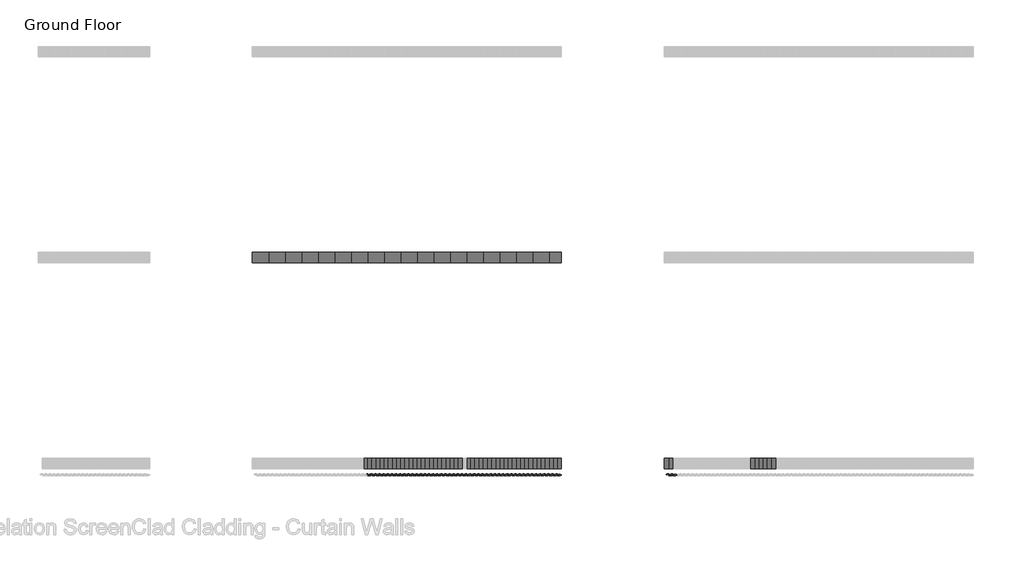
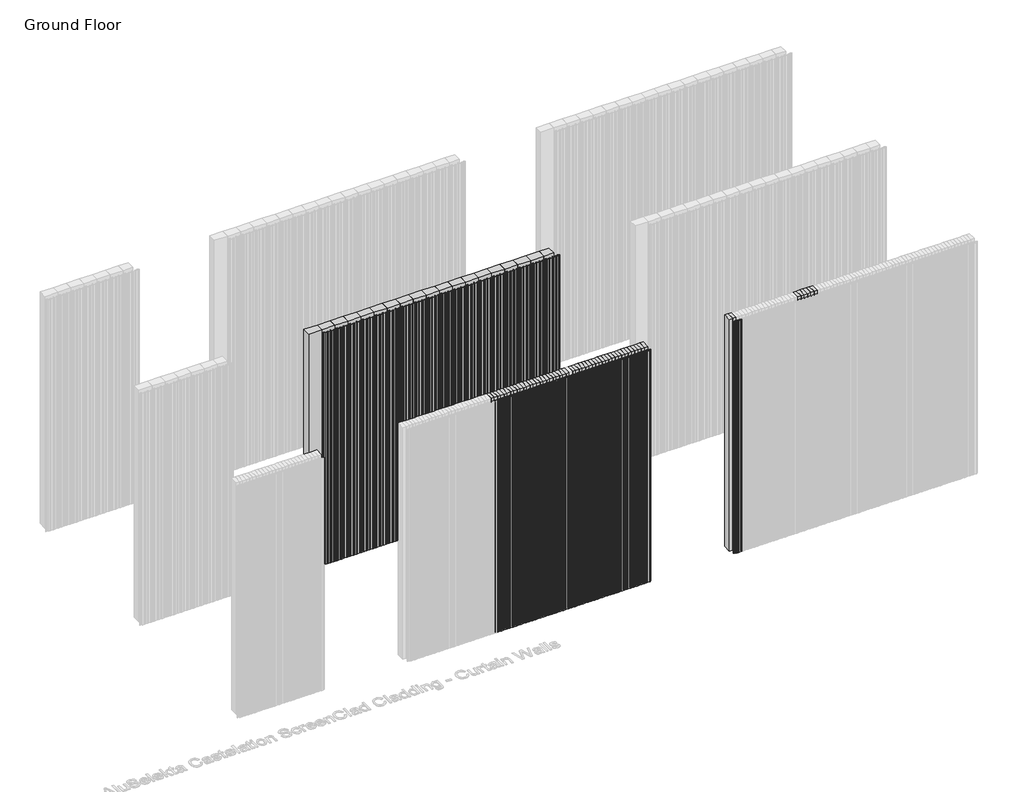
# One storey, part 24 of 350: 74 plates, 67 members.
"""IFC4 building model written with IfcOpenShell, lengths in millimetres."""

from ifc_helpers import new_model, si_unit, origin, place, context, project, spatial, transform, mapped, element, save
from components import rectangular_mullion_73ab8564, rectangular_mullion_4c3290df, empty_system_panel_empty_d822e783, empty_system_panel_empty_086c6263, empty_system_panel_empty_a0fcacb3, empty_system_panel_empty_3b645525, empty_system_panel_empty_df7ddcff

model = new_model("IFC4")

# Units and contexts
model_context = context("Model", 3, world=origin())
ifc_project = project(units=[si_unit("LENGTHUNIT", "METRE", prefix="MILLI")], contexts=[model_context])

# Site, building, storey
site = spatial("IfcSite", under=ifc_project)
building = spatial("IfcBuilding", under=site)
storey = spatial("IfcBuildingStorey", under=building, Name="Ground Floor", Elevation=0.0)

# Members
placement = place(None, origin())
rectangular_mullion_shape = rectangular_mullion_73ab8564(model_context)
element("IfcMember", 1, ObjectType="Rectangular Mullion : Cladding_Aluminium_Modinex_AluSelekta_Castelation_ScreenClad_160_Cedar", at=placement, inside=storey, context=model_context, shape_type="MappedRepresentation", body=[
    mapped(rectangular_mullion_shape, transform((33076.4361642, 6968.2978302, 0.0), x_axis=(1.0, 0.0, 0.0), y_axis=(0.0, -1.0, 0.0), z_axis=(0.0, 0.0, -1.0))),
])
element("IfcMember", 2, ObjectType="Rectangular Mullion : Cladding_Aluminium_Modinex_AluSelekta_Castelation_ScreenClad_160_Cedar", at=placement, inside=storey, context=model_context, shape_type="MappedRepresentation", body=[
    mapped(rectangular_mullion_shape, transform((33236.4361642, 6968.2978302, 0.0), x_axis=(1.0, 0.0, 0.0), y_axis=(0.0, -1.0, 0.0), z_axis=(0.0, 0.0, -1.0))),
])
element("IfcMember", 3, ObjectType="Rectangular Mullion : Cladding_Aluminium_Modinex_AluSelekta_Castelation_ScreenClad_160_Cedar", at=placement, inside=storey, context=model_context, shape_type="MappedRepresentation", body=[
    mapped(rectangular_mullion_shape, transform((33396.4361642, 6968.2978302, 0.0), x_axis=(1.0, 0.0, 0.0), y_axis=(0.0, -1.0, 0.0), z_axis=(0.0, 0.0, -1.0))),
])
element("IfcMember", 4, ObjectType="Rectangular Mullion : Cladding_Aluminium_Modinex_AluSelekta_Castelation_ScreenClad_160_Cedar", at=placement, inside=storey, context=model_context, shape_type="MappedRepresentation", body=[
    mapped(rectangular_mullion_shape, transform((33556.4361642, 6968.2978302, 0.0), x_axis=(1.0, 0.0, 0.0), y_axis=(0.0, -1.0, 0.0), z_axis=(0.0, 0.0, -1.0))),
])
element("IfcMember", 5, ObjectType="Rectangular Mullion : Cladding_Aluminium_Modinex_AluSelekta_Castelation_ScreenClad_160_Cedar", at=placement, inside=storey, context=model_context, shape_type="MappedRepresentation", body=[
    mapped(rectangular_mullion_shape, transform((33716.4361642, 6968.2978302, 0.0), x_axis=(1.0, 0.0, 0.0), y_axis=(0.0, -1.0, 0.0), z_axis=(0.0, 0.0, -1.0))),
])
element("IfcMember", 6, ObjectType="Rectangular Mullion : Cladding_Aluminium_Modinex_AluSelekta_Castelation_ScreenClad_160_Cedar", at=placement, inside=storey, context=model_context, shape_type="MappedRepresentation", body=[
    mapped(rectangular_mullion_shape, transform((33876.4361642, 6968.2978302, 0.0), x_axis=(1.0, 0.0, 0.0), y_axis=(0.0, -1.0, 0.0), z_axis=(0.0, 0.0, -1.0))),
])
element("IfcMember", 7, ObjectType="Rectangular Mullion : Cladding_Aluminium_Modinex_AluSelekta_Castelation_ScreenClad_160_Cedar", at=placement, inside=storey, context=model_context, shape_type="MappedRepresentation", body=[
    mapped(rectangular_mullion_shape, transform((34036.4361642, 6968.2978302, 0.0), x_axis=(1.0, 0.0, 0.0), y_axis=(0.0, -1.0, 0.0), z_axis=(0.0, 0.0, -1.0))),
])
element("IfcMember", 8, ObjectType="Rectangular Mullion : Cladding_Aluminium_Modinex_AluSelekta_Castelation_ScreenClad_160_Cedar", at=placement, inside=storey, context=model_context, shape_type="MappedRepresentation", body=[
    mapped(rectangular_mullion_shape, transform((34196.4361642, 6968.2978302, 0.0), x_axis=(1.0, 0.0, 0.0), y_axis=(0.0, -1.0, 0.0), z_axis=(0.0, 0.0, -1.0))),
])
element("IfcMember", 9, ObjectType="Rectangular Mullion : Cladding_Aluminium_Modinex_AluSelekta_Castelation_ScreenClad_160_Cedar", at=placement, inside=storey, context=model_context, shape_type="MappedRepresentation", body=[
    mapped(rectangular_mullion_shape, transform((34356.4361642, 6968.2978302, 0.0), x_axis=(1.0, 0.0, 0.0), y_axis=(0.0, -1.0, 0.0), z_axis=(0.0, 0.0, -1.0))),
])
element("IfcMember", 10, ObjectType="Rectangular Mullion : Cladding_Aluminium_Modinex_AluSelekta_Castelation_ScreenClad_160_Cedar", at=placement, inside=storey, context=model_context, shape_type="MappedRepresentation", body=[
    mapped(rectangular_mullion_shape, transform((34516.4361642, 6968.2978302, 0.0), x_axis=(1.0, 0.0, 0.0), y_axis=(0.0, -1.0, 0.0), z_axis=(0.0, 0.0, -1.0))),
])
element("IfcMember", 11, ObjectType="Rectangular Mullion : Cladding_Aluminium_Modinex_AluSelekta_Castelation_ScreenClad_160_Cedar", at=placement, inside=storey, context=model_context, shape_type="MappedRepresentation", body=[
    mapped(rectangular_mullion_shape, transform((34676.4361642, 6968.2978302, 0.0), x_axis=(1.0, 0.0, 0.0), y_axis=(0.0, -1.0, 0.0), z_axis=(0.0, 0.0, -1.0))),
])
element("IfcMember", 12, ObjectType="Rectangular Mullion : Cladding_Aluminium_Modinex_AluSelekta_Castelation_ScreenClad_160_Cedar", at=placement, inside=storey, context=model_context, shape_type="MappedRepresentation", body=[
    mapped(rectangular_mullion_shape, transform((34836.4361642, 6968.2978302, 0.0), x_axis=(1.0, 0.0, 0.0), y_axis=(0.0, -1.0, 0.0), z_axis=(0.0, 0.0, -1.0))),
])
element("IfcMember", 13, ObjectType="Rectangular Mullion : Cladding_Aluminium_Modinex_AluSelekta_Castelation_ScreenClad_160_Cedar", at=placement, inside=storey, context=model_context, shape_type="MappedRepresentation", body=[
    mapped(rectangular_mullion_shape, transform((34996.4361642, 6968.2978302, 0.0), x_axis=(1.0, 0.0, 0.0), y_axis=(0.0, -1.0, 0.0), z_axis=(0.0, 0.0, -1.0))),
])
element("IfcMember", 14, ObjectType="Rectangular Mullion : Cladding_Aluminium_Modinex_AluSelekta_Castelation_ScreenClad_160_Cedar", at=placement, inside=storey, context=model_context, shape_type="MappedRepresentation", body=[
    mapped(rectangular_mullion_shape, transform((35156.4361642, 6968.2978302, 0.0), x_axis=(1.0, 0.0, 0.0), y_axis=(0.0, -1.0, 0.0), z_axis=(0.0, 0.0, -1.0))),
])
element("IfcMember", 15, ObjectType="Rectangular Mullion : Cladding_Aluminium_Modinex_AluSelekta_Castelation_ScreenClad_160_Cedar", at=placement, inside=storey, context=model_context, shape_type="MappedRepresentation", body=[
    mapped(rectangular_mullion_shape, transform((35316.4361642, 6968.2978302, 0.0), x_axis=(1.0, 0.0, 0.0), y_axis=(0.0, -1.0, 0.0), z_axis=(0.0, 0.0, -1.0))),
])
element("IfcMember", 16, ObjectType="Rectangular Mullion : Cladding_Aluminium_Modinex_AluSelekta_Castelation_ScreenClad_160_Cedar", at=placement, inside=storey, context=model_context, shape_type="MappedRepresentation", body=[
    mapped(rectangular_mullion_shape, transform((35476.4361642, 6968.2978302, 0.0), x_axis=(1.0, 0.0, 0.0), y_axis=(0.0, -1.0, 0.0), z_axis=(0.0, 0.0, -1.0))),
])
element("IfcMember", 17, ObjectType="Rectangular Mullion : Cladding_Aluminium_Modinex_AluSelekta_Castelation_ScreenClad_160_Cedar", at=placement, inside=storey, context=model_context, shape_type="MappedRepresentation", body=[
    mapped(rectangular_mullion_shape, transform((35636.4361642, 6968.2978302, 0.0), x_axis=(1.0, 0.0, 0.0), y_axis=(0.0, -1.0, 0.0), z_axis=(0.0, 0.0, -1.0))),
])
element("IfcMember", 18, ObjectType="Rectangular Mullion : Cladding_Aluminium_Modinex_AluSelekta_Castelation_ScreenClad_160_Cedar", at=placement, inside=storey, context=model_context, shape_type="MappedRepresentation", body=[
    mapped(rectangular_mullion_shape, transform((35796.4361642, 6968.2978302, 0.0), x_axis=(1.0, 0.0, 0.0), y_axis=(0.0, -1.0, 0.0), z_axis=(0.0, 0.0, -1.0))),
])
rectangular_mullion_2_shape = rectangular_mullion_4c3290df(model_context)
element("IfcMember", 19, ObjectType="Rectangular Mullion : Cladding_Aluminium_Modinex_AluSelekta_Castelation_ScreenClad_40_Cedar", at=placement, inside=storey, context=model_context, shape_type="MappedRepresentation", body=[
    mapped(rectangular_mullion_2_shape, transform((35156.4361642, 4968.2978302, 0.0), x_axis=(1.0, 0.0, 0.0), y_axis=(0.0, -1.0, 0.0), z_axis=(0.0, 0.0, -1.0))),
])
element("IfcMember", 20, ObjectType="Rectangular Mullion : Cladding_Aluminium_Modinex_AluSelekta_Castelation_ScreenClad_40_Cedar", at=placement, inside=storey, context=model_context, shape_type="MappedRepresentation", body=[
    mapped(rectangular_mullion_2_shape, transform((35196.4361642, 4968.2978302, 0.0), x_axis=(1.0, 0.0, 0.0), y_axis=(0.0, -1.0, 0.0), z_axis=(0.0, 0.0, -1.0))),
])
element("IfcMember", 21, ObjectType="Rectangular Mullion : Cladding_Aluminium_Modinex_AluSelekta_Castelation_ScreenClad_40_Cedar", at=placement, inside=storey, context=model_context, shape_type="MappedRepresentation", body=[
    mapped(rectangular_mullion_2_shape, transform((35236.4361642, 4968.2978302, 0.0), x_axis=(1.0, 0.0, 0.0), y_axis=(0.0, -1.0, 0.0), z_axis=(0.0, 0.0, -1.0))),
])
element("IfcMember", 22, ObjectType="Rectangular Mullion : Cladding_Aluminium_Modinex_AluSelekta_Castelation_ScreenClad_40_Cedar", at=placement, inside=storey, context=model_context, shape_type="MappedRepresentation", body=[
    mapped(rectangular_mullion_2_shape, transform((35276.4361642, 4968.2978302, 0.0), x_axis=(1.0, 0.0, 0.0), y_axis=(0.0, -1.0, 0.0), z_axis=(0.0, 0.0, -1.0))),
])
element("IfcMember", 23, ObjectType="Rectangular Mullion : Cladding_Aluminium_Modinex_AluSelekta_Castelation_ScreenClad_40_Cedar", at=placement, inside=storey, context=model_context, shape_type="MappedRepresentation", body=[
    mapped(rectangular_mullion_2_shape, transform((35316.4361642, 4968.2978302, 0.0), x_axis=(1.0, 0.0, 0.0), y_axis=(0.0, -1.0, 0.0), z_axis=(0.0, 0.0, -1.0))),
])
element("IfcMember", 24, ObjectType="Rectangular Mullion : Cladding_Aluminium_Modinex_AluSelekta_Castelation_ScreenClad_40_Cedar", at=placement, inside=storey, context=model_context, shape_type="MappedRepresentation", body=[
    mapped(rectangular_mullion_2_shape, transform((35356.4361642, 4968.2978302, 0.0), x_axis=(1.0, 0.0, 0.0), y_axis=(0.0, -1.0, 0.0), z_axis=(0.0, 0.0, -1.0))),
])
element("IfcMember", 25, ObjectType="Rectangular Mullion : Cladding_Aluminium_Modinex_AluSelekta_Castelation_ScreenClad_40_Cedar", at=placement, inside=storey, context=model_context, shape_type="MappedRepresentation", body=[
    mapped(rectangular_mullion_2_shape, transform((35396.4361642, 4968.2978302, 0.0), x_axis=(1.0, 0.0, 0.0), y_axis=(0.0, -1.0, 0.0), z_axis=(0.0, 0.0, -1.0))),
])
element("IfcMember", 26, ObjectType="Rectangular Mullion : Cladding_Aluminium_Modinex_AluSelekta_Castelation_ScreenClad_40_Cedar", at=placement, inside=storey, context=model_context, shape_type="MappedRepresentation", body=[
    mapped(rectangular_mullion_2_shape, transform((35436.4361642, 4968.2978302, 0.0), x_axis=(1.0, 0.0, 0.0), y_axis=(0.0, -1.0, 0.0), z_axis=(0.0, 0.0, -1.0))),
])
element("IfcMember", 27, ObjectType="Rectangular Mullion : Cladding_Aluminium_Modinex_AluSelekta_Castelation_ScreenClad_40_Cedar", at=placement, inside=storey, context=model_context, shape_type="MappedRepresentation", body=[
    mapped(rectangular_mullion_2_shape, transform((35476.4361642, 4968.2978302, 0.0), x_axis=(1.0, 0.0, 0.0), y_axis=(0.0, -1.0, 0.0), z_axis=(0.0, 0.0, -1.0))),
])
element("IfcMember", 28, ObjectType="Rectangular Mullion : Cladding_Aluminium_Modinex_AluSelekta_Castelation_ScreenClad_40_Cedar", at=placement, inside=storey, context=model_context, shape_type="MappedRepresentation", body=[
    mapped(rectangular_mullion_2_shape, transform((35516.4361642, 4968.2978302, 0.0), x_axis=(1.0, 0.0, 0.0), y_axis=(0.0, -1.0, 0.0), z_axis=(0.0, 0.0, -1.0))),
])
element("IfcMember", 29, ObjectType="Rectangular Mullion : Cladding_Aluminium_Modinex_AluSelekta_Castelation_ScreenClad_40_Cedar", at=placement, inside=storey, context=model_context, shape_type="MappedRepresentation", body=[
    mapped(rectangular_mullion_2_shape, transform((35556.4361642, 4968.2978302, 0.0), x_axis=(1.0, 0.0, 0.0), y_axis=(0.0, -1.0, 0.0), z_axis=(0.0, 0.0, -1.0))),
])
element("IfcMember", 30, ObjectType="Rectangular Mullion : Cladding_Aluminium_Modinex_AluSelekta_Castelation_ScreenClad_40_Cedar", at=placement, inside=storey, context=model_context, shape_type="MappedRepresentation", body=[
    mapped(rectangular_mullion_2_shape, transform((35596.4361642, 4968.2978302, 0.0), x_axis=(1.0, 0.0, 0.0), y_axis=(0.0, -1.0, 0.0), z_axis=(0.0, 0.0, -1.0))),
])
element("IfcMember", 31, ObjectType="Rectangular Mullion : Cladding_Aluminium_Modinex_AluSelekta_Castelation_ScreenClad_40_Cedar", at=placement, inside=storey, context=model_context, shape_type="MappedRepresentation", body=[
    mapped(rectangular_mullion_2_shape, transform((35636.4361642, 4968.2978302, 0.0), x_axis=(1.0, 0.0, 0.0), y_axis=(0.0, -1.0, 0.0), z_axis=(0.0, 0.0, -1.0))),
])
element("IfcMember", 32, ObjectType="Rectangular Mullion : Cladding_Aluminium_Modinex_AluSelekta_Castelation_ScreenClad_40_Cedar", at=placement, inside=storey, context=model_context, shape_type="MappedRepresentation", body=[
    mapped(rectangular_mullion_2_shape, transform((35676.4361642, 4968.2978302, 0.0), x_axis=(1.0, 0.0, 0.0), y_axis=(0.0, -1.0, 0.0), z_axis=(0.0, 0.0, -1.0))),
])
element("IfcMember", 33, ObjectType="Rectangular Mullion : Cladding_Aluminium_Modinex_AluSelekta_Castelation_ScreenClad_40_Cedar", at=placement, inside=storey, context=model_context, shape_type="MappedRepresentation", body=[
    mapped(rectangular_mullion_2_shape, transform((35716.4361642, 4968.2978302, 0.0), x_axis=(1.0, 0.0, 0.0), y_axis=(0.0, -1.0, 0.0), z_axis=(0.0, 0.0, -1.0))),
])
element("IfcMember", 34, ObjectType="Rectangular Mullion : Cladding_Aluminium_Modinex_AluSelekta_Castelation_ScreenClad_40_Cedar", at=placement, inside=storey, context=model_context, shape_type="MappedRepresentation", body=[
    mapped(rectangular_mullion_2_shape, transform((35756.4361642, 4968.2978302, 0.0), x_axis=(1.0, 0.0, 0.0), y_axis=(0.0, -1.0, 0.0), z_axis=(0.0, 0.0, -1.0))),
])
element("IfcMember", 35, ObjectType="Rectangular Mullion : Cladding_Aluminium_Modinex_AluSelekta_Castelation_ScreenClad_40_Cedar", at=placement, inside=storey, context=model_context, shape_type="MappedRepresentation", body=[
    mapped(rectangular_mullion_2_shape, transform((35796.4361642, 4968.2978302, 0.0), x_axis=(1.0, 0.0, 0.0), y_axis=(0.0, -1.0, 0.0), z_axis=(0.0, 0.0, -1.0))),
])
element("IfcMember", 36, ObjectType="Rectangular Mullion : Cladding_Aluminium_Modinex_AluSelekta_Castelation_ScreenClad_40_Cedar", at=placement, inside=storey, context=model_context, shape_type="MappedRepresentation", body=[
    mapped(rectangular_mullion_2_shape, transform((35836.4361642, 4968.2978302, 0.0), x_axis=(1.0, 0.0, 0.0), y_axis=(0.0, -1.0, 0.0), z_axis=(0.0, 0.0, -1.0))),
])
element("IfcMember", 37, ObjectType="Rectangular Mullion : Cladding_Aluminium_Modinex_AluSelekta_Castelation_ScreenClad_40_Cedar", at=placement, inside=storey, context=model_context, shape_type="MappedRepresentation", body=[
    mapped(rectangular_mullion_2_shape, transform((35876.4361642, 4968.2978302, 0.0), x_axis=(1.0, 0.0, 0.0), y_axis=(0.0, -1.0, 0.0), z_axis=(0.0, 0.0, -1.0))),
])
element("IfcMember", 38, ObjectType="Rectangular Mullion : Cladding_Aluminium_Modinex_AluSelekta_Castelation_ScreenClad_40_Cedar", at=placement, inside=storey, context=model_context, shape_type="MappedRepresentation", body=[
    mapped(rectangular_mullion_2_shape, transform((35116.4361642, 4968.2978302, 0.0), x_axis=(1.0, 0.0, 0.0), y_axis=(0.0, -1.0, 0.0), z_axis=(0.0, 0.0, -1.0))),
])
element("IfcMember", 39, ObjectType="Rectangular Mullion : Cladding_Aluminium_Modinex_AluSelekta_Castelation_ScreenClad_40_Cedar", at=placement, inside=storey, context=model_context, shape_type="MappedRepresentation", body=[
    mapped(rectangular_mullion_2_shape, transform((35076.4361642, 4968.2978302, 0.0), x_axis=(1.0, 0.0, 0.0), y_axis=(0.0, -1.0, 0.0), z_axis=(0.0, 0.0, -1.0))),
])
element("IfcMember", 40, ObjectType="Rectangular Mullion : Cladding_Aluminium_Modinex_AluSelekta_Castelation_ScreenClad_40_Cedar", at=placement, inside=storey, context=model_context, shape_type="MappedRepresentation", body=[
    mapped(rectangular_mullion_2_shape, transform((35036.4361642, 4968.2978302, 0.0), x_axis=(1.0, 0.0, 0.0), y_axis=(0.0, -1.0, 0.0), z_axis=(0.0, 0.0, -1.0))),
])
element("IfcMember", 41, ObjectType="Rectangular Mullion : Cladding_Aluminium_Modinex_AluSelekta_Castelation_ScreenClad_40_Cedar", at=placement, inside=storey, context=model_context, shape_type="MappedRepresentation", body=[
    mapped(rectangular_mullion_2_shape, transform((34996.4361642, 4968.2978302, 0.0), x_axis=(1.0, 0.0, 0.0), y_axis=(0.0, -1.0, 0.0), z_axis=(0.0, 0.0, -1.0))),
])
element("IfcMember", 42, ObjectType="Rectangular Mullion : Cladding_Aluminium_Modinex_AluSelekta_Castelation_ScreenClad_40_Cedar", at=placement, inside=storey, context=model_context, shape_type="MappedRepresentation", body=[
    mapped(rectangular_mullion_2_shape, transform((34956.4361642, 4968.2978302, 0.0), x_axis=(1.0, 0.0, 0.0), y_axis=(0.0, -1.0, 0.0), z_axis=(0.0, 0.0, -1.0))),
])
element("IfcMember", 43, ObjectType="Rectangular Mullion : Cladding_Aluminium_Modinex_AluSelekta_Castelation_ScreenClad_40_Cedar", at=placement, inside=storey, context=model_context, shape_type="MappedRepresentation", body=[
    mapped(rectangular_mullion_2_shape, transform((34916.4361642, 4968.2978302, 0.0), x_axis=(1.0, 0.0, 0.0), y_axis=(0.0, -1.0, 0.0), z_axis=(0.0, 0.0, -1.0))),
])
element("IfcMember", 44, ObjectType="Rectangular Mullion : Cladding_Aluminium_Modinex_AluSelekta_Castelation_ScreenClad_40_Cedar", at=placement, inside=storey, context=model_context, shape_type="MappedRepresentation", body=[
    mapped(rectangular_mullion_2_shape, transform((34876.4361642, 4968.2978302, 0.0), x_axis=(1.0, 0.0, 0.0), y_axis=(0.0, -1.0, 0.0), z_axis=(0.0, 0.0, -1.0))),
])
element("IfcMember", 45, ObjectType="Rectangular Mullion : Cladding_Aluminium_Modinex_AluSelekta_Castelation_ScreenClad_40_Cedar", at=placement, inside=storey, context=model_context, shape_type="MappedRepresentation", body=[
    mapped(rectangular_mullion_2_shape, transform((34836.4361642, 4968.2978302, 0.0), x_axis=(1.0, 0.0, 0.0), y_axis=(0.0, -1.0, 0.0), z_axis=(0.0, 0.0, -1.0))),
])
element("IfcMember", 46, ObjectType="Rectangular Mullion : Cladding_Aluminium_Modinex_AluSelekta_Castelation_ScreenClad_40_Cedar", at=placement, inside=storey, context=model_context, shape_type="MappedRepresentation", body=[
    mapped(rectangular_mullion_2_shape, transform((34796.4361642, 4968.2978302, 0.0), x_axis=(1.0, 0.0, 0.0), y_axis=(0.0, -1.0, 0.0), z_axis=(0.0, 0.0, -1.0))),
])
element("IfcMember", 47, ObjectType="Rectangular Mullion : Cladding_Aluminium_Modinex_AluSelekta_Castelation_ScreenClad_40_Cedar", at=placement, inside=storey, context=model_context, shape_type="MappedRepresentation", body=[
    mapped(rectangular_mullion_2_shape, transform((34756.4361642, 4968.2978302, 0.0), x_axis=(1.0, 0.0, 0.0), y_axis=(0.0, -1.0, 0.0), z_axis=(0.0, 0.0, -1.0))),
])
element("IfcMember", 48, ObjectType="Rectangular Mullion : Cladding_Aluminium_Modinex_AluSelekta_Castelation_ScreenClad_40_Cedar", at=placement, inside=storey, context=model_context, shape_type="MappedRepresentation", body=[
    mapped(rectangular_mullion_2_shape, transform((34716.4361642, 4968.2978302, 0.0), x_axis=(1.0, 0.0, 0.0), y_axis=(0.0, -1.0, 0.0), z_axis=(0.0, 0.0, -1.0))),
])
element("IfcMember", 49, ObjectType="Rectangular Mullion : Cladding_Aluminium_Modinex_AluSelekta_Castelation_ScreenClad_40_Cedar", at=placement, inside=storey, context=model_context, shape_type="MappedRepresentation", body=[
    mapped(rectangular_mullion_2_shape, transform((34676.4361642, 4968.2978302, 0.0), x_axis=(1.0, 0.0, 0.0), y_axis=(0.0, -1.0, 0.0), z_axis=(0.0, 0.0, -1.0))),
])
element("IfcMember", 50, ObjectType="Rectangular Mullion : Cladding_Aluminium_Modinex_AluSelekta_Castelation_ScreenClad_40_Cedar", at=placement, inside=storey, context=model_context, shape_type="MappedRepresentation", body=[
    mapped(rectangular_mullion_2_shape, transform((34636.4361642, 4968.2978302, 0.0), x_axis=(1.0, 0.0, 0.0), y_axis=(0.0, -1.0, 0.0), z_axis=(0.0, 0.0, -1.0))),
])
element("IfcMember", 51, ObjectType="Rectangular Mullion : Cladding_Aluminium_Modinex_AluSelekta_Castelation_ScreenClad_40_Cedar", at=placement, inside=storey, context=model_context, shape_type="MappedRepresentation", body=[
    mapped(rectangular_mullion_2_shape, transform((34596.4361642, 4968.2978302, 0.0), x_axis=(1.0, 0.0, 0.0), y_axis=(0.0, -1.0, 0.0), z_axis=(0.0, 0.0, -1.0))),
])
element("IfcMember", 52, ObjectType="Rectangular Mullion : Cladding_Aluminium_Modinex_AluSelekta_Castelation_ScreenClad_40_Cedar", at=placement, inside=storey, context=model_context, shape_type="MappedRepresentation", body=[
    mapped(rectangular_mullion_2_shape, transform((34556.4361642, 4968.2978302, 0.0), x_axis=(1.0, 0.0, 0.0), y_axis=(0.0, -1.0, 0.0), z_axis=(0.0, 0.0, -1.0))),
])
element("IfcMember", 53, ObjectType="Rectangular Mullion : Cladding_Aluminium_Modinex_AluSelekta_Castelation_ScreenClad_40_Cedar", at=placement, inside=storey, context=model_context, shape_type="MappedRepresentation", body=[
    mapped(rectangular_mullion_2_shape, transform((34516.4361642, 4968.2978302, 0.0), x_axis=(1.0, 0.0, 0.0), y_axis=(0.0, -1.0, 0.0), z_axis=(0.0, 0.0, -1.0))),
])
element("IfcMember", 54, ObjectType="Rectangular Mullion : Cladding_Aluminium_Modinex_AluSelekta_Castelation_ScreenClad_40_Cedar", at=placement, inside=storey, context=model_context, shape_type="MappedRepresentation", body=[
    mapped(rectangular_mullion_2_shape, transform((34476.4361642, 4968.2978302, 0.0), x_axis=(1.0, 0.0, 0.0), y_axis=(0.0, -1.0, 0.0), z_axis=(0.0, 0.0, -1.0))),
])
element("IfcMember", 55, ObjectType="Rectangular Mullion : Cladding_Aluminium_Modinex_AluSelekta_Castelation_ScreenClad_40_Cedar", at=placement, inside=storey, context=model_context, shape_type="MappedRepresentation", body=[
    mapped(rectangular_mullion_2_shape, transform((34436.4361642, 4968.2978302, 0.0), x_axis=(1.0, 0.0, 0.0), y_axis=(0.0, -1.0, 0.0), z_axis=(0.0, 0.0, -1.0))),
])
element("IfcMember", 56, ObjectType="Rectangular Mullion : Cladding_Aluminium_Modinex_AluSelekta_Castelation_ScreenClad_40_Cedar", at=placement, inside=storey, context=model_context, shape_type="MappedRepresentation", body=[
    mapped(rectangular_mullion_2_shape, transform((34396.4361642, 4968.2978302, 0.0), x_axis=(1.0, 0.0, 0.0), y_axis=(0.0, -1.0, 0.0), z_axis=(0.0, 0.0, -1.0))),
])
element("IfcMember", 57, ObjectType="Rectangular Mullion : Cladding_Aluminium_Modinex_AluSelekta_Castelation_ScreenClad_40_Cedar", at=placement, inside=storey, context=model_context, shape_type="MappedRepresentation", body=[
    mapped(rectangular_mullion_2_shape, transform((34356.4361642, 4968.2978302, 0.0), x_axis=(1.0, 0.0, 0.0), y_axis=(0.0, -1.0, 0.0), z_axis=(0.0, 0.0, -1.0))),
])
element("IfcMember", 58, ObjectType="Rectangular Mullion : Cladding_Aluminium_Modinex_AluSelekta_Castelation_ScreenClad_40_Cedar", at=placement, inside=storey, context=model_context, shape_type="MappedRepresentation", body=[
    mapped(rectangular_mullion_2_shape, transform((34316.4361642, 4968.2978302, 0.0), x_axis=(1.0, 0.0, 0.0), y_axis=(0.0, -1.0, 0.0), z_axis=(0.0, 0.0, -1.0))),
])
element("IfcMember", 59, ObjectType="Rectangular Mullion : Cladding_Aluminium_Modinex_AluSelekta_Castelation_ScreenClad_40_Cedar", at=placement, inside=storey, context=model_context, shape_type="MappedRepresentation", body=[
    mapped(rectangular_mullion_2_shape, transform((34276.4361642, 4968.2978302, 0.0), x_axis=(1.0, 0.0, 0.0), y_axis=(0.0, -1.0, 0.0), z_axis=(0.0, 0.0, -1.0))),
])
element("IfcMember", 60, ObjectType="Rectangular Mullion : Cladding_Aluminium_Modinex_AluSelekta_Castelation_ScreenClad_40_Cedar", at=placement, inside=storey, context=model_context, shape_type="MappedRepresentation", body=[
    mapped(rectangular_mullion_2_shape, transform((34236.4361642, 4968.2978302, 0.0), x_axis=(1.0, 0.0, 0.0), y_axis=(0.0, -1.0, 0.0), z_axis=(0.0, 0.0, -1.0))),
])
element("IfcMember", 61, ObjectType="Rectangular Mullion : Cladding_Aluminium_Modinex_AluSelekta_Castelation_ScreenClad_40_Cedar", at=placement, inside=storey, context=model_context, shape_type="MappedRepresentation", body=[
    mapped(rectangular_mullion_2_shape, transform((34196.4361642, 4968.2978302, 0.0), x_axis=(1.0, 0.0, 0.0), y_axis=(0.0, -1.0, 0.0), z_axis=(0.0, 0.0, -1.0))),
])
element("IfcMember", 62, ObjectType="Rectangular Mullion : Cladding_Aluminium_Modinex_AluSelekta_Castelation_ScreenClad_40_Cedar", at=placement, inside=storey, context=model_context, shape_type="MappedRepresentation", body=[
    mapped(rectangular_mullion_2_shape, transform((34156.4361642, 4968.2978302, 0.0), x_axis=(1.0, 0.0, 0.0), y_axis=(0.0, -1.0, 0.0), z_axis=(0.0, 0.0, -1.0))),
])
element("IfcMember", 63, ObjectType="Rectangular Mullion : Cladding_Aluminium_Modinex_AluSelekta_Castelation_ScreenClad_40_Cedar", at=placement, inside=storey, context=model_context, shape_type="MappedRepresentation", body=[
    mapped(rectangular_mullion_2_shape, transform((34116.4361642, 4968.2978302, 0.0), x_axis=(1.0, 0.0, 0.0), y_axis=(0.0, -1.0, 0.0), z_axis=(0.0, 0.0, -1.0))),
])
element("IfcMember", 64, ObjectType="Rectangular Mullion : Cladding_Aluminium_Modinex_AluSelekta_Castelation_ScreenClad_40_Cedar", at=placement, inside=storey, context=model_context, shape_type="MappedRepresentation", body=[
    mapped(rectangular_mullion_2_shape, transform((34076.4361642, 4968.2978302, 0.0), x_axis=(1.0, 0.0, 0.0), y_axis=(0.0, -1.0, 0.0), z_axis=(0.0, 0.0, -1.0))),
])
element("IfcMember", 65, ObjectType="Rectangular Mullion : Cladding_Aluminium_Modinex_AluSelekta_Castelation_ScreenClad_40_Cedar", at=placement, inside=storey, context=model_context, shape_type="MappedRepresentation", body=[
    mapped(rectangular_mullion_2_shape, transform((34036.4361642, 4968.2978302, 0.0), x_axis=(1.0, 0.0, 0.0), y_axis=(0.0, -1.0, 0.0), z_axis=(0.0, 0.0, -1.0))),
])
element("IfcMember", 66, ObjectType="Rectangular Mullion : Cladding_Aluminium_Modinex_AluSelekta_Castelation_ScreenClad_40_EnglishOak", at=placement, inside=storey, context=model_context, shape_type="MappedRepresentation", body=[
    mapped(rectangular_mullion_2_shape, transform((36996.4361642, 4968.2978302, 0.0), x_axis=(1.0, 0.0, 0.0), y_axis=(0.0, -1.0, 0.0), z_axis=(0.0, 0.0, -1.0))),
])
element("IfcMember", 67, ObjectType="Rectangular Mullion : Cladding_Aluminium_Modinex_AluSelekta_Castelation_ScreenClad_40_EnglishOak", at=placement, inside=storey, context=model_context, shape_type="MappedRepresentation", body=[
    mapped(rectangular_mullion_2_shape, transform((36956.4361642, 4968.2978302, 0.0), x_axis=(1.0, 0.0, 0.0), y_axis=(0.0, -1.0, 0.0), z_axis=(0.0, 0.0, -1.0))),
])

# Plates
empty_system_panel_empty_shape = empty_system_panel_empty_d822e783(model_context)
element("IfcPlate", 68, ObjectType="Empty System Panel : Empty", at=placement, inside=storey, context=model_context, shape_type="MappedRepresentation", body=[
    mapped(empty_system_panel_empty_shape, transform((36936.4361641, 4968.2978302, 0.0), x_axis=(1.0, 0.0, 0.0), y_axis=(0.0, 1.0, 0.0), z_axis=(0.0, 0.0, 1.0))),
])
empty_system_panel_empty_2_shape = empty_system_panel_empty_086c6263(model_context)
element("IfcPlate", 69, ObjectType="Empty System Panel : Empty", at=placement, inside=storey, context=model_context, shape_type="MappedRepresentation", body=[
    mapped(empty_system_panel_empty_2_shape, transform((35176.4361642, 4968.2978302, 0.0), x_axis=(1.0, 0.0, 0.0), y_axis=(0.0, 1.0, 0.0), z_axis=(0.0, 0.0, 1.0))),
])
element("IfcPlate", 70, ObjectType="Empty System Panel : Empty", at=placement, inside=storey, context=model_context, shape_type="MappedRepresentation", body=[
    mapped(empty_system_panel_empty_2_shape, transform((35216.4361642, 4968.2978302, 0.0), x_axis=(1.0, 0.0, 0.0), y_axis=(0.0, 1.0, 0.0), z_axis=(0.0, 0.0, 1.0))),
])
element("IfcPlate", 71, ObjectType="Empty System Panel : Empty", at=placement, inside=storey, context=model_context, shape_type="MappedRepresentation", body=[
    mapped(empty_system_panel_empty_2_shape, transform((35256.4361642, 4968.2978302, 0.0), x_axis=(1.0, 0.0, 0.0), y_axis=(0.0, 1.0, 0.0), z_axis=(0.0, 0.0, 1.0))),
])
element("IfcPlate", 72, ObjectType="Empty System Panel : Empty", at=placement, inside=storey, context=model_context, shape_type="MappedRepresentation", body=[
    mapped(empty_system_panel_empty_2_shape, transform((35296.4361642, 4968.2978302, 0.0), x_axis=(1.0, 0.0, 0.0), y_axis=(0.0, 1.0, 0.0), z_axis=(0.0, 0.0, 1.0))),
])
element("IfcPlate", 73, ObjectType="Empty System Panel : Empty", at=placement, inside=storey, context=model_context, shape_type="MappedRepresentation", body=[
    mapped(empty_system_panel_empty_2_shape, transform((35336.4361642, 4968.2978302, 0.0), x_axis=(1.0, 0.0, 0.0), y_axis=(0.0, 1.0, 0.0), z_axis=(0.0, 0.0, 1.0))),
])
element("IfcPlate", 74, ObjectType="Empty System Panel : Empty", at=placement, inside=storey, context=model_context, shape_type="MappedRepresentation", body=[
    mapped(empty_system_panel_empty_2_shape, transform((35376.4361642, 4968.2978302, 0.0), x_axis=(1.0, 0.0, 0.0), y_axis=(0.0, 1.0, 0.0), z_axis=(0.0, 0.0, 1.0))),
])
element("IfcPlate", 75, ObjectType="Empty System Panel : Empty", at=placement, inside=storey, context=model_context, shape_type="MappedRepresentation", body=[
    mapped(empty_system_panel_empty_2_shape, transform((35416.4361642, 4968.2978302, 0.0), x_axis=(1.0, 0.0, 0.0), y_axis=(0.0, 1.0, 0.0), z_axis=(0.0, 0.0, 1.0))),
])
element("IfcPlate", 76, ObjectType="Empty System Panel : Empty", at=placement, inside=storey, context=model_context, shape_type="MappedRepresentation", body=[
    mapped(empty_system_panel_empty_2_shape, transform((35456.4361642, 4968.2978302, 0.0), x_axis=(1.0, 0.0, 0.0), y_axis=(0.0, 1.0, 0.0), z_axis=(0.0, 0.0, 1.0))),
])
element("IfcPlate", 77, ObjectType="Empty System Panel : Empty", at=placement, inside=storey, context=model_context, shape_type="MappedRepresentation", body=[
    mapped(empty_system_panel_empty_2_shape, transform((35496.4361642, 4968.2978302, 0.0), x_axis=(1.0, 0.0, 0.0), y_axis=(0.0, 1.0, 0.0), z_axis=(0.0, 0.0, 1.0))),
])
element("IfcPlate", 78, ObjectType="Empty System Panel : Empty", at=placement, inside=storey, context=model_context, shape_type="MappedRepresentation", body=[
    mapped(empty_system_panel_empty_2_shape, transform((35536.4361642, 4968.2978302, 0.0), x_axis=(1.0, 0.0, 0.0), y_axis=(0.0, 1.0, 0.0), z_axis=(0.0, 0.0, 1.0))),
])
element("IfcPlate", 79, ObjectType="Empty System Panel : Empty", at=placement, inside=storey, context=model_context, shape_type="MappedRepresentation", body=[
    mapped(empty_system_panel_empty_2_shape, transform((35576.4361642, 4968.2978302, 0.0), x_axis=(1.0, 0.0, 0.0), y_axis=(0.0, 1.0, 0.0), z_axis=(0.0, 0.0, 1.0))),
])
element("IfcPlate", 80, ObjectType="Empty System Panel : Empty", at=placement, inside=storey, context=model_context, shape_type="MappedRepresentation", body=[
    mapped(empty_system_panel_empty_2_shape, transform((35616.4361642, 4968.2978302, 0.0), x_axis=(1.0, 0.0, 0.0), y_axis=(0.0, 1.0, 0.0), z_axis=(0.0, 0.0, 1.0))),
])
element("IfcPlate", 81, ObjectType="Empty System Panel : Empty", at=placement, inside=storey, context=model_context, shape_type="MappedRepresentation", body=[
    mapped(empty_system_panel_empty_2_shape, transform((35656.4361642, 4968.2978302, 0.0), x_axis=(1.0, 0.0, 0.0), y_axis=(0.0, 1.0, 0.0), z_axis=(0.0, 0.0, 1.0))),
])
element("IfcPlate", 82, ObjectType="Empty System Panel : Empty", at=placement, inside=storey, context=model_context, shape_type="MappedRepresentation", body=[
    mapped(empty_system_panel_empty_2_shape, transform((35696.4361642, 4968.2978302, 0.0), x_axis=(1.0, 0.0, 0.0), y_axis=(0.0, 1.0, 0.0), z_axis=(0.0, 0.0, 1.0))),
])
element("IfcPlate", 83, ObjectType="Empty System Panel : Empty", at=placement, inside=storey, context=model_context, shape_type="MappedRepresentation", body=[
    mapped(empty_system_panel_empty_2_shape, transform((35736.4361642, 4968.2978302, 0.0), x_axis=(1.0, 0.0, 0.0), y_axis=(0.0, 1.0, 0.0), z_axis=(0.0, 0.0, 1.0))),
])
element("IfcPlate", 84, ObjectType="Empty System Panel : Empty", at=placement, inside=storey, context=model_context, shape_type="MappedRepresentation", body=[
    mapped(empty_system_panel_empty_2_shape, transform((35776.4361642, 4968.2978302, 0.0), x_axis=(1.0, 0.0, 0.0), y_axis=(0.0, 1.0, 0.0), z_axis=(0.0, 0.0, 1.0))),
])
element("IfcPlate", 85, ObjectType="Empty System Panel : Empty", at=placement, inside=storey, context=model_context, shape_type="MappedRepresentation", body=[
    mapped(empty_system_panel_empty_2_shape, transform((35816.4361642, 4968.2978302, 0.0), x_axis=(1.0, 0.0, 0.0), y_axis=(0.0, 1.0, 0.0), z_axis=(0.0, 0.0, 1.0))),
])
element("IfcPlate", 86, ObjectType="Empty System Panel : Empty", at=placement, inside=storey, context=model_context, shape_type="MappedRepresentation", body=[
    mapped(empty_system_panel_empty_2_shape, transform((35856.4361642, 4968.2978302, 0.0), x_axis=(1.0, 0.0, 0.0), y_axis=(0.0, 1.0, 0.0), z_axis=(0.0, 0.0, 1.0))),
])
element("IfcPlate", 87, ObjectType="Empty System Panel : Empty", at=placement, inside=storey, context=model_context, shape_type="MappedRepresentation", body=[
    mapped(empty_system_panel_empty_2_shape, transform((35136.4361642, 4968.2978302, 0.0), x_axis=(1.0, 0.0, 0.0), y_axis=(0.0, 1.0, 0.0), z_axis=(0.0, 0.0, 1.0))),
])
element("IfcPlate", 88, ObjectType="Empty System Panel : Empty", at=placement, inside=storey, context=model_context, shape_type="MappedRepresentation", body=[
    mapped(empty_system_panel_empty_2_shape, transform((35096.4361642, 4968.2978302, 0.0), x_axis=(1.0, 0.0, 0.0), y_axis=(0.0, 1.0, 0.0), z_axis=(0.0, 0.0, 1.0))),
])
element("IfcPlate", 89, ObjectType="Empty System Panel : Empty", at=placement, inside=storey, context=model_context, shape_type="MappedRepresentation", body=[
    mapped(empty_system_panel_empty_2_shape, transform((35056.4361642, 4968.2978302, 0.0), x_axis=(1.0, 0.0, 0.0), y_axis=(0.0, 1.0, 0.0), z_axis=(0.0, 0.0, 1.0))),
])
element("IfcPlate", 90, ObjectType="Empty System Panel : Empty", at=placement, inside=storey, context=model_context, shape_type="MappedRepresentation", body=[
    mapped(empty_system_panel_empty_2_shape, transform((35016.4361642, 4968.2978302, 0.0), x_axis=(1.0, 0.0, 0.0), y_axis=(0.0, 1.0, 0.0), z_axis=(0.0, 0.0, 1.0))),
])
element("IfcPlate", 91, ObjectType="Empty System Panel : Empty", at=placement, inside=storey, context=model_context, shape_type="MappedRepresentation", body=[
    mapped(empty_system_panel_empty_2_shape, transform((34936.4361642, 4968.2978302, 0.0), x_axis=(1.0, 0.0, 0.0), y_axis=(0.0, 1.0, 0.0), z_axis=(0.0, 0.0, 1.0))),
])
element("IfcPlate", 92, ObjectType="Empty System Panel : Empty", at=placement, inside=storey, context=model_context, shape_type="MappedRepresentation", body=[
    mapped(empty_system_panel_empty_2_shape, transform((34896.4361642, 4968.2978302, 0.0), x_axis=(1.0, 0.0, 0.0), y_axis=(0.0, 1.0, 0.0), z_axis=(0.0, 0.0, 1.0))),
])
element("IfcPlate", 93, ObjectType="Empty System Panel : Empty", at=placement, inside=storey, context=model_context, shape_type="MappedRepresentation", body=[
    mapped(empty_system_panel_empty_2_shape, transform((34856.4361642, 4968.2978302, 0.0), x_axis=(1.0, 0.0, 0.0), y_axis=(0.0, 1.0, 0.0), z_axis=(0.0, 0.0, 1.0))),
])
element("IfcPlate", 94, ObjectType="Empty System Panel : Empty", at=placement, inside=storey, context=model_context, shape_type="MappedRepresentation", body=[
    mapped(empty_system_panel_empty_2_shape, transform((34816.4361642, 4968.2978302, 0.0), x_axis=(1.0, 0.0, 0.0), y_axis=(0.0, 1.0, 0.0), z_axis=(0.0, 0.0, 1.0))),
])
element("IfcPlate", 95, ObjectType="Empty System Panel : Empty", at=placement, inside=storey, context=model_context, shape_type="MappedRepresentation", body=[
    mapped(empty_system_panel_empty_2_shape, transform((34776.4361642, 4968.2978302, 0.0), x_axis=(1.0, 0.0, 0.0), y_axis=(0.0, 1.0, 0.0), z_axis=(0.0, 0.0, 1.0))),
])
element("IfcPlate", 96, ObjectType="Empty System Panel : Empty", at=placement, inside=storey, context=model_context, shape_type="MappedRepresentation", body=[
    mapped(empty_system_panel_empty_2_shape, transform((34736.4361642, 4968.2978302, 0.0), x_axis=(1.0, 0.0, 0.0), y_axis=(0.0, 1.0, 0.0), z_axis=(0.0, 0.0, 1.0))),
])
element("IfcPlate", 97, ObjectType="Empty System Panel : Empty", at=placement, inside=storey, context=model_context, shape_type="MappedRepresentation", body=[
    mapped(empty_system_panel_empty_2_shape, transform((34696.4361642, 4968.2978302, 0.0), x_axis=(1.0, 0.0, 0.0), y_axis=(0.0, 1.0, 0.0), z_axis=(0.0, 0.0, 1.0))),
])
element("IfcPlate", 98, ObjectType="Empty System Panel : Empty", at=placement, inside=storey, context=model_context, shape_type="MappedRepresentation", body=[
    mapped(empty_system_panel_empty_2_shape, transform((34656.4361642, 4968.2978302, 0.0), x_axis=(1.0, 0.0, 0.0), y_axis=(0.0, 1.0, 0.0), z_axis=(0.0, 0.0, 1.0))),
])
element("IfcPlate", 99, ObjectType="Empty System Panel : Empty", at=placement, inside=storey, context=model_context, shape_type="MappedRepresentation", body=[
    mapped(empty_system_panel_empty_2_shape, transform((34616.4361642, 4968.2978302, 0.0), x_axis=(1.0, 0.0, 0.0), y_axis=(0.0, 1.0, 0.0), z_axis=(0.0, 0.0, 1.0))),
])
element("IfcPlate", 100, ObjectType="Empty System Panel : Empty", at=placement, inside=storey, context=model_context, shape_type="MappedRepresentation", body=[
    mapped(empty_system_panel_empty_2_shape, transform((34576.4361642, 4968.2978302, 0.0), x_axis=(1.0, 0.0, 0.0), y_axis=(0.0, 1.0, 0.0), z_axis=(0.0, 0.0, 1.0))),
])
element("IfcPlate", 101, ObjectType="Empty System Panel : Empty", at=placement, inside=storey, context=model_context, shape_type="MappedRepresentation", body=[
    mapped(empty_system_panel_empty_2_shape, transform((34536.4361642, 4968.2978302, 0.0), x_axis=(1.0, 0.0, 0.0), y_axis=(0.0, 1.0, 0.0), z_axis=(0.0, 0.0, 1.0))),
])
element("IfcPlate", 102, ObjectType="Empty System Panel : Empty", at=placement, inside=storey, context=model_context, shape_type="MappedRepresentation", body=[
    mapped(empty_system_panel_empty_2_shape, transform((34496.4361642, 4968.2978302, 0.0), x_axis=(1.0, 0.0, 0.0), y_axis=(0.0, 1.0, 0.0), z_axis=(0.0, 0.0, 1.0))),
])
element("IfcPlate", 103, ObjectType="Empty System Panel : Empty", at=placement, inside=storey, context=model_context, shape_type="MappedRepresentation", body=[
    mapped(empty_system_panel_empty_2_shape, transform((34456.4361642, 4968.2978302, 0.0), x_axis=(1.0, 0.0, 0.0), y_axis=(0.0, 1.0, 0.0), z_axis=(0.0, 0.0, 1.0))),
])
element("IfcPlate", 104, ObjectType="Empty System Panel : Empty", at=placement, inside=storey, context=model_context, shape_type="MappedRepresentation", body=[
    mapped(empty_system_panel_empty_2_shape, transform((34416.4361642, 4968.2978302, 0.0), x_axis=(1.0, 0.0, 0.0), y_axis=(0.0, 1.0, 0.0), z_axis=(0.0, 0.0, 1.0))),
])
element("IfcPlate", 105, ObjectType="Empty System Panel : Empty", at=placement, inside=storey, context=model_context, shape_type="MappedRepresentation", body=[
    mapped(empty_system_panel_empty_2_shape, transform((34376.4361642, 4968.2978302, 0.0), x_axis=(1.0, 0.0, 0.0), y_axis=(0.0, 1.0, 0.0), z_axis=(0.0, 0.0, 1.0))),
])
element("IfcPlate", 106, ObjectType="Empty System Panel : Empty", at=placement, inside=storey, context=model_context, shape_type="MappedRepresentation", body=[
    mapped(empty_system_panel_empty_2_shape, transform((34336.4361642, 4968.2978302, 0.0), x_axis=(1.0, 0.0, 0.0), y_axis=(0.0, 1.0, 0.0), z_axis=(0.0, 0.0, 1.0))),
])
element("IfcPlate", 107, ObjectType="Empty System Panel : Empty", at=placement, inside=storey, context=model_context, shape_type="MappedRepresentation", body=[
    mapped(empty_system_panel_empty_2_shape, transform((34296.4361642, 4968.2978302, 0.0), x_axis=(1.0, 0.0, 0.0), y_axis=(0.0, 1.0, 0.0), z_axis=(0.0, 0.0, 1.0))),
])
element("IfcPlate", 108, ObjectType="Empty System Panel : Empty", at=placement, inside=storey, context=model_context, shape_type="MappedRepresentation", body=[
    mapped(empty_system_panel_empty_2_shape, transform((34256.4361642, 4968.2978302, 0.0), x_axis=(1.0, 0.0, 0.0), y_axis=(0.0, 1.0, 0.0), z_axis=(0.0, 0.0, 1.0))),
])
element("IfcPlate", 109, ObjectType="Empty System Panel : Empty", at=placement, inside=storey, context=model_context, shape_type="MappedRepresentation", body=[
    mapped(empty_system_panel_empty_2_shape, transform((34216.4361642, 4968.2978302, 0.0), x_axis=(1.0, 0.0, 0.0), y_axis=(0.0, 1.0, 0.0), z_axis=(0.0, 0.0, 1.0))),
])
element("IfcPlate", 110, ObjectType="Empty System Panel : Empty", at=placement, inside=storey, context=model_context, shape_type="MappedRepresentation", body=[
    mapped(empty_system_panel_empty_2_shape, transform((34176.4361642, 4968.2978302, 0.0), x_axis=(1.0, 0.0, 0.0), y_axis=(0.0, 1.0, 0.0), z_axis=(0.0, 0.0, 1.0))),
])
element("IfcPlate", 111, ObjectType="Empty System Panel : Empty", at=placement, inside=storey, context=model_context, shape_type="MappedRepresentation", body=[
    mapped(empty_system_panel_empty_2_shape, transform((34136.4361642, 4968.2978302, 0.0), x_axis=(1.0, 0.0, 0.0), y_axis=(0.0, 1.0, 0.0), z_axis=(0.0, 0.0, 1.0))),
])
element("IfcPlate", 112, ObjectType="Empty System Panel : Empty", at=placement, inside=storey, context=model_context, shape_type="MappedRepresentation", body=[
    mapped(empty_system_panel_empty_2_shape, transform((34096.4361642, 4968.2978302, 0.0), x_axis=(1.0, 0.0, 0.0), y_axis=(0.0, 1.0, 0.0), z_axis=(0.0, 0.0, 1.0))),
])
element("IfcPlate", 113, ObjectType="Empty System Panel : Empty", at=placement, inside=storey, context=model_context, shape_type="MappedRepresentation", body=[
    mapped(empty_system_panel_empty_2_shape, transform((34056.4361642, 4968.2978302, 0.0), x_axis=(1.0, 0.0, 0.0), y_axis=(0.0, 1.0, 0.0), z_axis=(0.0, 0.0, 1.0))),
])
element("IfcPlate", 114, ObjectType="Empty System Panel : Empty", at=placement, inside=storey, context=model_context, shape_type="MappedRepresentation", body=[
    mapped(empty_system_panel_empty_2_shape, transform((34016.4361642, 4968.2978302, 0.0), x_axis=(1.0, 0.0, 0.0), y_axis=(0.0, 1.0, 0.0), z_axis=(0.0, 0.0, 1.0))),
])
element("IfcPlate", 115, ObjectType="Empty System Panel : Empty", at=placement, inside=storey, context=model_context, shape_type="MappedRepresentation", body=[
    mapped(empty_system_panel_empty_2_shape, transform((37976.4361642, 4968.2978302, 0.0), x_axis=(1.0, 0.0, 0.0), y_axis=(0.0, 1.0, 0.0), z_axis=(0.0, 0.0, 1.0))),
])
element("IfcPlate", 116, ObjectType="Empty System Panel : Empty", at=placement, inside=storey, context=model_context, shape_type="MappedRepresentation", body=[
    mapped(empty_system_panel_empty_2_shape, transform((37936.4361642, 4968.2978302, 0.0), x_axis=(1.0, 0.0, 0.0), y_axis=(0.0, 1.0, 0.0), z_axis=(0.0, 0.0, 1.0))),
])
element("IfcPlate", 117, ObjectType="Empty System Panel : Empty", at=placement, inside=storey, context=model_context, shape_type="MappedRepresentation", body=[
    mapped(empty_system_panel_empty_2_shape, transform((37896.4361642, 4968.2978302, 0.0), x_axis=(1.0, 0.0, 0.0), y_axis=(0.0, 1.0, 0.0), z_axis=(0.0, 0.0, 1.0))),
])
element("IfcPlate", 118, ObjectType="Empty System Panel : Empty", at=placement, inside=storey, context=model_context, shape_type="MappedRepresentation", body=[
    mapped(empty_system_panel_empty_2_shape, transform((37856.4361642, 4968.2978302, 0.0), x_axis=(1.0, 0.0, 0.0), y_axis=(0.0, 1.0, 0.0), z_axis=(0.0, 0.0, 1.0))),
])
element("IfcPlate", 119, ObjectType="Empty System Panel : Empty", at=placement, inside=storey, context=model_context, shape_type="MappedRepresentation", body=[
    mapped(empty_system_panel_empty_2_shape, transform((37816.4361642, 4968.2978302, 0.0), x_axis=(1.0, 0.0, 0.0), y_axis=(0.0, 1.0, 0.0), z_axis=(0.0, 0.0, 1.0))),
])
element("IfcPlate", 120, ObjectType="Empty System Panel : Empty", at=placement, inside=storey, context=model_context, shape_type="MappedRepresentation", body=[
    mapped(empty_system_panel_empty_2_shape, transform((37776.4361642, 4968.2978302, 0.0), x_axis=(1.0, 0.0, 0.0), y_axis=(0.0, 1.0, 0.0), z_axis=(0.0, 0.0, 1.0))),
])
element("IfcPlate", 121, ObjectType="Empty System Panel : Empty", at=placement, inside=storey, context=model_context, shape_type="MappedRepresentation", body=[
    mapped(empty_system_panel_empty_2_shape, transform((36976.4361642, 4968.2978302, 0.0), x_axis=(1.0, 0.0, 0.0), y_axis=(0.0, 1.0, 0.0), z_axis=(0.0, 0.0, 1.0))),
])
empty_system_panel_empty_3_shape = empty_system_panel_empty_a0fcacb3(model_context)
element("IfcPlate", 122, ObjectType="Empty System Panel : Empty", at=placement, inside=storey, context=model_context, shape_type="MappedRepresentation", body=[
    mapped(empty_system_panel_empty_3_shape, transform((35896.4361641, 4968.2978302, 0.0), x_axis=(1.0, 0.0, 0.0), y_axis=(0.0, 1.0, 0.0), z_axis=(0.0, 0.0, 1.0))),
])
empty_system_panel_empty_4_shape = empty_system_panel_empty_3b645525(model_context)
element("IfcPlate", 123, ObjectType="Empty System Panel : Empty", at=placement, inside=storey, context=model_context, shape_type="MappedRepresentation", body=[
    mapped(empty_system_panel_empty_4_shape, transform((32996.4361641, 6968.2978302, 0.0), x_axis=(1.0, 0.0, 0.0), y_axis=(0.0, 1.0, 0.0), z_axis=(0.0, 0.0, 1.0))),
])
element("IfcPlate", 124, ObjectType="Empty System Panel : Empty", at=placement, inside=storey, context=model_context, shape_type="MappedRepresentation", body=[
    mapped(empty_system_panel_empty_4_shape, transform((33156.4361642, 6968.2978302, 0.0), x_axis=(1.0, 0.0, 0.0), y_axis=(0.0, 1.0, 0.0), z_axis=(0.0, 0.0, 1.0))),
])
element("IfcPlate", 125, ObjectType="Empty System Panel : Empty", at=placement, inside=storey, context=model_context, shape_type="MappedRepresentation", body=[
    mapped(empty_system_panel_empty_4_shape, transform((33316.4361642, 6968.2978302, 0.0), x_axis=(1.0, 0.0, 0.0), y_axis=(0.0, 1.0, 0.0), z_axis=(0.0, 0.0, 1.0))),
])
element("IfcPlate", 126, ObjectType="Empty System Panel : Empty", at=placement, inside=storey, context=model_context, shape_type="MappedRepresentation", body=[
    mapped(empty_system_panel_empty_4_shape, transform((33476.4361642, 6968.2978302, 0.0), x_axis=(1.0, 0.0, 0.0), y_axis=(0.0, 1.0, 0.0), z_axis=(0.0, 0.0, 1.0))),
])
element("IfcPlate", 127, ObjectType="Empty System Panel : Empty", at=placement, inside=storey, context=model_context, shape_type="MappedRepresentation", body=[
    mapped(empty_system_panel_empty_4_shape, transform((33636.4361642, 6968.2978302, 0.0), x_axis=(1.0, 0.0, 0.0), y_axis=(0.0, 1.0, 0.0), z_axis=(0.0, 0.0, 1.0))),
])
element("IfcPlate", 128, ObjectType="Empty System Panel : Empty", at=placement, inside=storey, context=model_context, shape_type="MappedRepresentation", body=[
    mapped(empty_system_panel_empty_4_shape, transform((33796.4361642, 6968.2978302, 0.0), x_axis=(1.0, 0.0, 0.0), y_axis=(0.0, 1.0, 0.0), z_axis=(0.0, 0.0, 1.0))),
])
element("IfcPlate", 129, ObjectType="Empty System Panel : Empty", at=placement, inside=storey, context=model_context, shape_type="MappedRepresentation", body=[
    mapped(empty_system_panel_empty_4_shape, transform((33956.4361642, 6968.2978302, 0.0), x_axis=(1.0, 0.0, 0.0), y_axis=(0.0, 1.0, 0.0), z_axis=(0.0, 0.0, 1.0))),
])
element("IfcPlate", 130, ObjectType="Empty System Panel : Empty", at=placement, inside=storey, context=model_context, shape_type="MappedRepresentation", body=[
    mapped(empty_system_panel_empty_4_shape, transform((34116.4361642, 6968.2978302, 0.0), x_axis=(1.0, 0.0, 0.0), y_axis=(0.0, 1.0, 0.0), z_axis=(0.0, 0.0, 1.0))),
])
element("IfcPlate", 131, ObjectType="Empty System Panel : Empty", at=placement, inside=storey, context=model_context, shape_type="MappedRepresentation", body=[
    mapped(empty_system_panel_empty_4_shape, transform((34276.4361642, 6968.2978302, 0.0), x_axis=(1.0, 0.0, 0.0), y_axis=(0.0, 1.0, 0.0), z_axis=(0.0, 0.0, 1.0))),
])
element("IfcPlate", 132, ObjectType="Empty System Panel : Empty", at=placement, inside=storey, context=model_context, shape_type="MappedRepresentation", body=[
    mapped(empty_system_panel_empty_4_shape, transform((34436.4361642, 6968.2978302, 0.0), x_axis=(1.0, 0.0, 0.0), y_axis=(0.0, 1.0, 0.0), z_axis=(0.0, 0.0, 1.0))),
])
element("IfcPlate", 133, ObjectType="Empty System Panel : Empty", at=placement, inside=storey, context=model_context, shape_type="MappedRepresentation", body=[
    mapped(empty_system_panel_empty_4_shape, transform((34596.4361642, 6968.2978302, 0.0), x_axis=(1.0, 0.0, 0.0), y_axis=(0.0, 1.0, 0.0), z_axis=(0.0, 0.0, 1.0))),
])
element("IfcPlate", 134, ObjectType="Empty System Panel : Empty", at=placement, inside=storey, context=model_context, shape_type="MappedRepresentation", body=[
    mapped(empty_system_panel_empty_4_shape, transform((34756.4361642, 6968.2978302, 0.0), x_axis=(1.0, 0.0, 0.0), y_axis=(0.0, 1.0, 0.0), z_axis=(0.0, 0.0, 1.0))),
])
element("IfcPlate", 135, ObjectType="Empty System Panel : Empty", at=placement, inside=storey, context=model_context, shape_type="MappedRepresentation", body=[
    mapped(empty_system_panel_empty_4_shape, transform((34916.4361642, 6968.2978302, 0.0), x_axis=(1.0, 0.0, 0.0), y_axis=(0.0, 1.0, 0.0), z_axis=(0.0, 0.0, 1.0))),
])
element("IfcPlate", 136, ObjectType="Empty System Panel : Empty", at=placement, inside=storey, context=model_context, shape_type="MappedRepresentation", body=[
    mapped(empty_system_panel_empty_4_shape, transform((35076.4361642, 6968.2978302, 0.0), x_axis=(1.0, 0.0, 0.0), y_axis=(0.0, 1.0, 0.0), z_axis=(0.0, 0.0, 1.0))),
])
element("IfcPlate", 137, ObjectType="Empty System Panel : Empty", at=placement, inside=storey, context=model_context, shape_type="MappedRepresentation", body=[
    mapped(empty_system_panel_empty_4_shape, transform((35236.4361642, 6968.2978302, 0.0), x_axis=(1.0, 0.0, 0.0), y_axis=(0.0, 1.0, 0.0), z_axis=(0.0, 0.0, 1.0))),
])
element("IfcPlate", 138, ObjectType="Empty System Panel : Empty", at=placement, inside=storey, context=model_context, shape_type="MappedRepresentation", body=[
    mapped(empty_system_panel_empty_4_shape, transform((35396.4361642, 6968.2978302, 0.0), x_axis=(1.0, 0.0, 0.0), y_axis=(0.0, 1.0, 0.0), z_axis=(0.0, 0.0, 1.0))),
])
element("IfcPlate", 139, ObjectType="Empty System Panel : Empty", at=placement, inside=storey, context=model_context, shape_type="MappedRepresentation", body=[
    mapped(empty_system_panel_empty_4_shape, transform((35556.4361642, 6968.2978302, 0.0), x_axis=(1.0, 0.0, 0.0), y_axis=(0.0, 1.0, 0.0), z_axis=(0.0, 0.0, 1.0))),
])
element("IfcPlate", 140, ObjectType="Empty System Panel : Empty", at=placement, inside=storey, context=model_context, shape_type="MappedRepresentation", body=[
    mapped(empty_system_panel_empty_4_shape, transform((35716.4361642, 6968.2978302, 0.0), x_axis=(1.0, 0.0, 0.0), y_axis=(0.0, 1.0, 0.0), z_axis=(0.0, 0.0, 1.0))),
])
empty_system_panel_empty_5_shape = empty_system_panel_empty_df7ddcff(model_context)
element("IfcPlate", 141, ObjectType="Empty System Panel : Empty", at=placement, inside=storey, context=model_context, shape_type="MappedRepresentation", body=[
    mapped(empty_system_panel_empty_5_shape, transform((35856.4361641, 6968.2978302, 0.0), x_axis=(1.0, 0.0, 0.0), y_axis=(0.0, 1.0, 0.0), z_axis=(0.0, 0.0, 1.0))),
])

save(model, "model.ifc")
